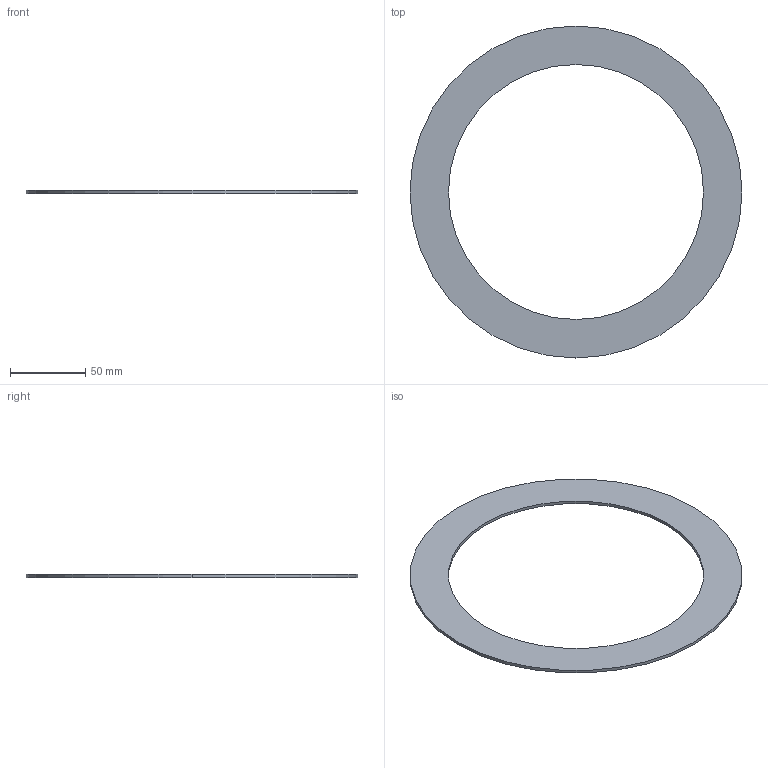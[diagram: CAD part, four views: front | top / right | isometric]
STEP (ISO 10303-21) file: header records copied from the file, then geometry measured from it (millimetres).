
FILE_DESCRIPTION (( 'STEP AP203' ), '1' );
FILE_NAME ('900170057ZW00A.STEP', '2020-03-02T08:09:22', ( '' ), ( '' ), 'SwSTEP 2.0', 'SolidWorks 2016', '' );
FILE_SCHEMA (( 'CONFIG_CONTROL_DESIGN' ));
Length unit declared in the file: millimetre
Products named in the file (1): 900170057ZW00A
Bounding box: 220 x 220 x 2 mm (x, y, z)
Volume: 31163 mm3; surface area: 33607.2 mm2
Topology: 1 solids, 1 shells, 6 faces, 12 edges, 8 vertices
Faces by surface type: cylinder 4, plane 2
Entity records: 245 total; most frequent: DIRECTION 34, CARTESIAN_POINT 27, ORIENTED_EDGE 24, AXIS2_PLACEMENT_3D 15, EDGE_CURVE 12, CIRCLE 8, EDGE_LOOP 8, PERSON_AND_ORGANIZATION 8
